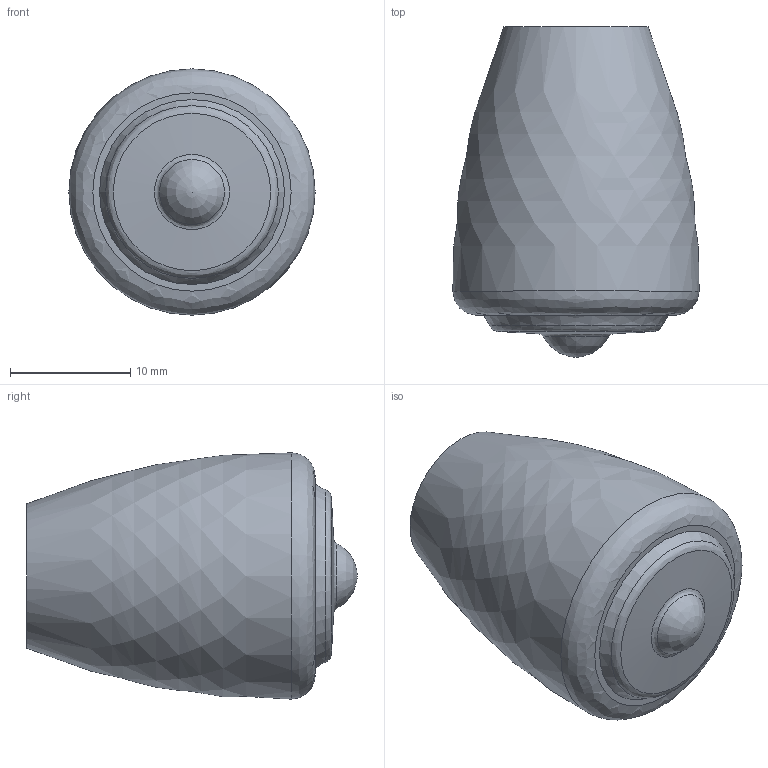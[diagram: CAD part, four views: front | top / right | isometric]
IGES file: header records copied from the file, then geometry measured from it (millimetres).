
Start section: Data from Parasolid IGES Translator 15.0.47, Copyright(c) 2006 Siemens P LM Software. All Rights Reserved.
Global section: file name: 9113494.igs; native system:  By UGS Corp.; preprocessor: XPlus GENERIC/IGES 3.0; author: Noname; organization: Noname; date: 20140122.101654; units: millimetre
Bounding box: 20.5 x 27.5 x 20.5 mm (x, y, z)
Surface area: 1893.6 mm2 (no closed solid volume)
Topology: 0 solids, 0 shells, 11 faces, 37 edges, 28 vertices
Faces by surface type: revolution 8, extrusion 3
